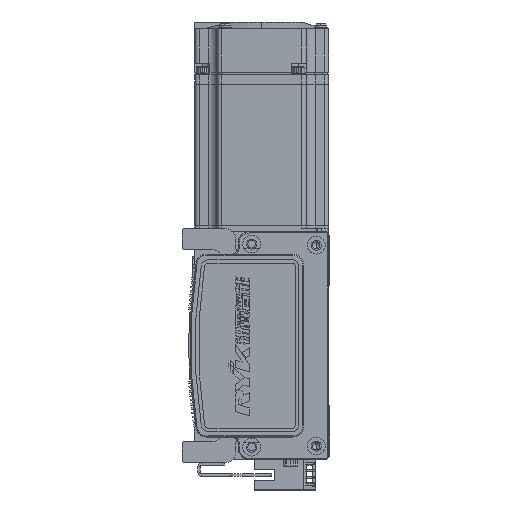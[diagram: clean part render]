
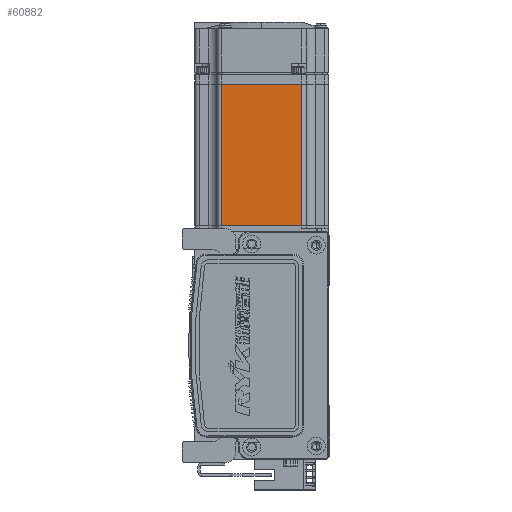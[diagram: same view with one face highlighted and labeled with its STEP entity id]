
A CAD part, left-side view. The second image highlights one B-rep face of the part: STEP entity #60882.
In plain terms, the highlighted planar face has unit normal (-1, 0, 0) as drawn and (0, 0, -1) by its records, which use the part's own axes.
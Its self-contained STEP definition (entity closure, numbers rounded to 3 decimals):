
#2653 = FACE_OUTER_BOUND ( 'NONE', #50515, .T. ) ;
#2698 = CARTESIAN_POINT ( 'NONE',  ( -6.5, 25., -30. ) ) ;
#6920 = VECTOR ( 'NONE', #14940, 1000. ) ;
#7582 = LINE ( 'NONE', #48604, #12941 ) ;
#8999 = CARTESIAN_POINT ( 'NONE',  ( -6.5, 18., -30. ) ) ;
#12941 = VECTOR ( 'NONE', #44136, 1000. ) ;
#14940 = DIRECTION ( 'NONE',  ( 1., 0., 0. ) ) ;
#17585 = ORIENTED_EDGE ( 'NONE', *, *, #59173, .T. ) ;
#18366 = ORIENTED_EDGE ( 'NONE', *, *, #42681, .T. ) ;
#18635 = DIRECTION ( 'NONE',  ( -1., 0., 0. ) ) ;
#18728 = CARTESIAN_POINT ( 'NONE',  ( -70.95, 18., -30. ) ) ;
#22751 = VECTOR ( 'NONE', #30748, 1000. ) ;
#24538 = LINE ( 'NONE', #25294, #22751 ) ;
#25294 = CARTESIAN_POINT ( 'NONE',  ( -70.95, 25., -30. ) ) ;
#25491 = EDGE_CURVE ( 'NONE', #25791, #60672, #71413, .T. ) ;
#25579 = EDGE_CURVE ( 'NONE', #60672, #50364, #7582, .T. ) ;
#25791 = VERTEX_POINT ( 'NONE', #44609 ) ;
#30748 = DIRECTION ( 'NONE',  ( 0., 1., 0. ) ) ;
#36211 = ORIENTED_EDGE ( 'NONE', *, *, #25579, .T. ) ;
#42427 = DIRECTION ( 'NONE',  ( 0., 0., -1. ) ) ;
#42681 = EDGE_CURVE ( 'NONE', #50364, #54053, #24538, .T. ) ;
#44136 = DIRECTION ( 'NONE',  ( -1., 0., 0. ) ) ;
#44513 = CARTESIAN_POINT ( 'NONE',  ( -70.95, -18., -30. ) ) ;
#44609 = CARTESIAN_POINT ( 'NONE',  ( -7.75, 18., -30. ) ) ;
#45019 = AXIS2_PLACEMENT_3D ( 'NONE', #2698, #42427, #18635 ) ;
#45627 = CARTESIAN_POINT ( 'NONE',  ( -7.75, 25., -30. ) ) ;
#48106 = PLANE ( 'NONE',  #45019 ) ;
#48604 = CARTESIAN_POINT ( 'NONE',  ( -6.5, -18., -30. ) ) ;
#49403 = CARTESIAN_POINT ( 'NONE',  ( -7.75, -18., -30. ) ) ;
#50364 = VERTEX_POINT ( 'NONE', #44513 ) ;
#50515 = EDGE_LOOP ( 'NONE', ( #55060, #36211, #18366, #17585 ) ) ;
#51965 = VECTOR ( 'NONE', #68339, 1000. ) ;
#54053 = VERTEX_POINT ( 'NONE', #18728 ) ;
#54787 = LINE ( 'NONE', #8999, #6920 ) ;
#55060 = ORIENTED_EDGE ( 'NONE', *, *, #25491, .T. ) ;
#59173 = EDGE_CURVE ( 'NONE', #54053, #25791, #54787, .T. ) ;
#60672 = VERTEX_POINT ( 'NONE', #49403 ) ;
#60882 = ADVANCED_FACE ( 'NONE', ( #2653 ), #48106, .T. ) ;
#68339 = DIRECTION ( 'NONE',  ( 0., -1., 0. ) ) ;
#71413 = LINE ( 'NONE', #45627, #51965 ) ;
